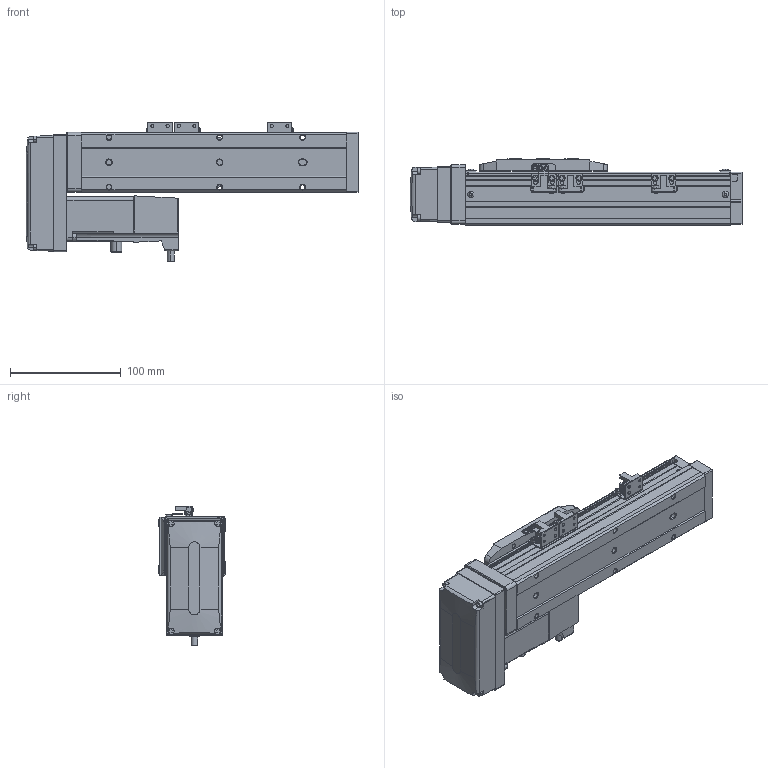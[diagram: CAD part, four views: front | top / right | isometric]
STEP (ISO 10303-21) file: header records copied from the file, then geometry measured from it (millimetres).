
FILE_DESCRIPTION (( 'STEP AP203' ), '1' );
FILE_NAME ('CTH5-L10-S100-BR-C10(¼ò).STEP', '2023-02-04T02:30:31', ( '' ), ( '' ), 'SwSTEP 2.0', 'SolidWorks 2018', '' );
FILE_SCHEMA (( 'CONFIG_CONTROL_DESIGN' ));
Length unit declared in the file: millimetre
Products named in the file (22): T10-p1; CTH5覜茼え; M3｡｣; 嫖萇羲壽郪磁1; CTH5耜晚蹟隊; CTH100W假蚾啣; CTH5ヶ耜啣(潠); 内六角圆柱头螺钉M3-2; 葩璃 蚾饜极16^CTH5-L10-S100-BR-C10(潠); 100W萇儂; CTH5-BL-T10_body5; PM-Y45; CTH5耜蚾蟀諉啣(潠); CTH5菁釱-L240; CTH5綴耜啣; CTH嫖萇羲壽假蚾啣; CTH5-L10-S100-BR-C10(潠); CTH5賑怢; 葩璃 蚾饜极13^CTH8-L10-S50-BM-C40(潠)1; CTH5耜蚾欶; hex nuts, style 1-grades ab gb_GB_FASTENER_NUT_SNAB1 M3-N; CTH5耜晚蹟隊-1
Assembly tree (37 placements, depth 4):
  CTH5-L10-S100-BR-C10(潠)
    CTH5綴耜啣
    CTH5賑怢
    CTH5ヶ耜啣(潠)
    CTH5菁釱-L240
    CTH5耜晚蹟隊  x2
    嫖萇羲壽郪磁1  x2
      CTH嫖萇羲壽假蚾啣
      PM-Y45
      M3｡｣
      内六角圆柱头螺钉M3-2
      hex nuts, style 1-grades ab gb_GB_FASTENER_NUT_SNAB1 M3-N
    CTH5覜茼え
    葩璃 蚾饜极13^CTH8-L10-S50-BM-C40(潠)1
      CTH嫖萇羲壽假蚾啣
      PM-Y45
      内六角圆柱头螺钉M3-2  x2
      M3｡｣  x2
      hex nuts, style 1-grades ab gb_GB_FASTENER_NUT_SNAB1 M3-N  x2
    CTH5耜晚蹟隊-1  x4
    葩璃 蚾饜极16^CTH5-L10-S100-BR-C10(潠)
      CTH5耜蚾蟀諉啣(潠)
      CTH5耜蚾欶
        CTH5-BL-T10_body5
      100W萇儂
        T10-p1
      CTH100W假蚾啣
Bounding box: 300 x 60 x 126.31 mm (x, y, z)
Volume: 938552.7 mm3; surface area: 163265.7 mm2
Topology: 39 solids, 39 shells, 1559 faces, 3897 edges, 2524 vertices
Faces by surface type: plane 890, cylinder 452, cone 159, torus 40, bspline 18
Entity records: 35863 total; most frequent: CARTESIAN_POINT 6636, DIRECTION 5621, ORIENTED_EDGE 5418, EDGE_CURVE 2709, AXIS2_PLACEMENT_3D 1916, VECTOR 1789, LINE 1789, VERTEX_POINT 1752
